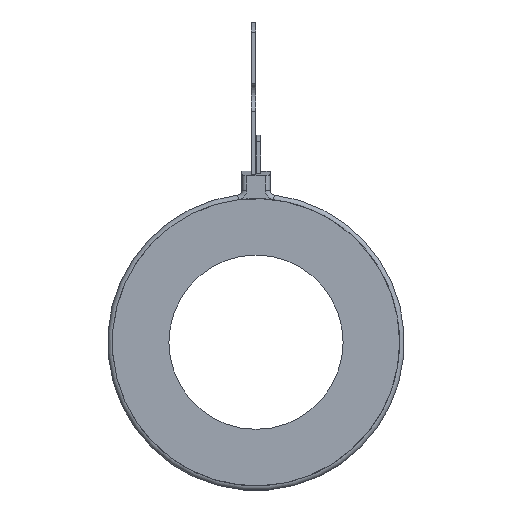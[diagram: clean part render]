
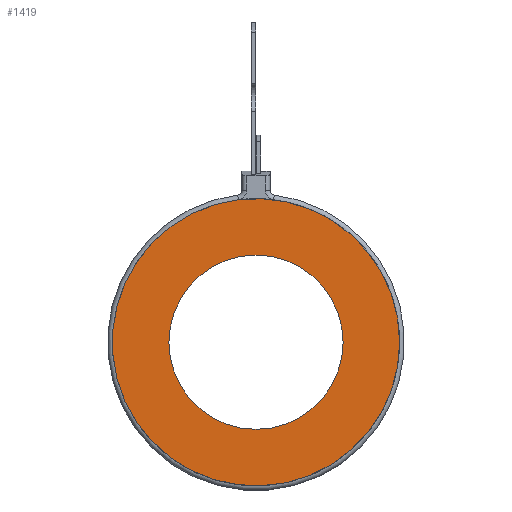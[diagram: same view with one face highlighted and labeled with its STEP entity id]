
A CAD part, front view. The second image highlights one B-rep face of the part: STEP entity #1419.
In plain terms, the highlighted planar face has unit normal (0, -1, 0).
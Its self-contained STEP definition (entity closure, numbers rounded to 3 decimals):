
#52=FACE_BOUND($,#342,.T.);
#162=CIRCLE($,#1573,15.25);
#167=CIRCLE($,#1585,9.25);
#244=FACE_OUTER_BOUND($,#341,.T.);
#341=EDGE_LOOP($,(#1217));
#342=EDGE_LOOP($,(#1218));
#643=VERTEX_POINT($,#2441);
#654=VERTEX_POINT($,#2474);
#827=EDGE_CURVE($,#643,#643,#162,.T.);
#842=EDGE_CURVE($,#654,#654,#167,.T.);
#1217=ORIENTED_EDGE($,*,*,#827,.T.);
#1218=ORIENTED_EDGE($,*,*,#842,.T.);
#1256=PLANE($,#1587);
#1419=ADVANCED_FACE($,(#244,#52),#1256,.T.);
#1573=AXIS2_PLACEMENT_3D($,#2442,#1976,#1977);
#1585=AXIS2_PLACEMENT_3D($,#2475,#2010,#2011);
#1587=AXIS2_PLACEMENT_3D($,#2477,#2014,#2015);
#1976=DIRECTION('center_axis',(0.,-1.,0.));
#1977=DIRECTION('ref_axis',(-1.,0.,0.));
#2010=DIRECTION('center_axis',(0.,1.,0.));
#2011=DIRECTION('ref_axis',(1.,0.,0.));
#2014=DIRECTION('center_axis',(0.,-1.,0.));
#2015=DIRECTION('ref_axis',(0.,0.,-1.));
#2441=CARTESIAN_POINT('',(15.25,0.,0.));
#2442=CARTESIAN_POINT('Origin',(0.,0.,0.));
#2474=CARTESIAN_POINT('',(-9.25,0.,0.));
#2475=CARTESIAN_POINT('Origin',(0.,0.,0.));
#2477=CARTESIAN_POINT('Origin',(0.,0.,0.));
